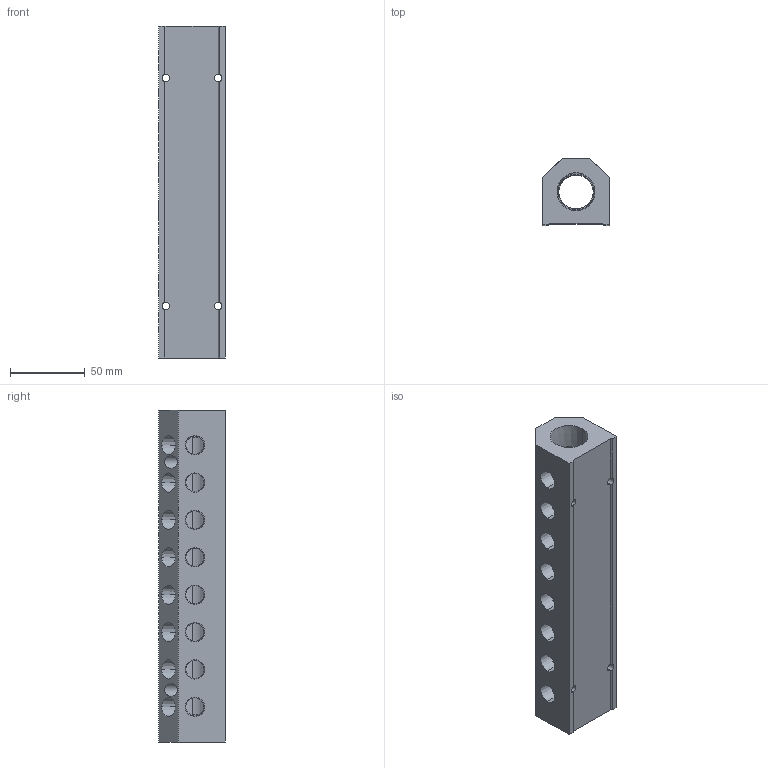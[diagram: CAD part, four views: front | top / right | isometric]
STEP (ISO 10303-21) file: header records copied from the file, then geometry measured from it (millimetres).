
FILE_DESCRIPTION (( 'STEP AP214' ), '1' );
FILE_NAME ('ALM8AB-N4N12-222R.step', '2022-02-06T14:06:14', ( '' ), ( '' ), 'SwSTEP 2.0', 'SolidWorks 2020', '' );
FILE_SCHEMA (( 'AUTOMOTIVE_DESIGN' ));
Length unit declared in the file: millimetre
Products named in the file (1): ALM8AB-N4N12-222R
Bounding box: 44.5 x 44.5 x 222 mm (x, y, z)
Volume: 273765.6 mm3; surface area: 60647.6 mm2
Topology: 1 solids, 1 shells, 341 faces, 956 edges, 634 vertices
Faces by surface type: plane 216, bspline 60, cone 41, cylinder 24
Entity records: 19067 total; most frequent: CARTESIAN_POINT 7624, ORIENTED_EDGE 1912, DIRECTION 1376, EDGE_CURVE 956, LINE 652, VECTOR 652, VERTEX_POINT 634, EDGE_LOOP 400
